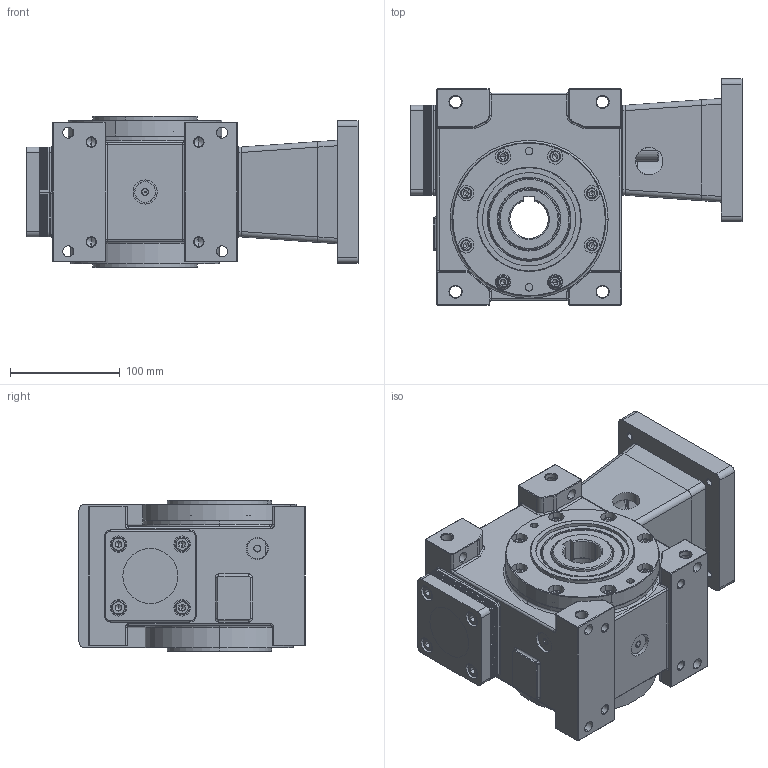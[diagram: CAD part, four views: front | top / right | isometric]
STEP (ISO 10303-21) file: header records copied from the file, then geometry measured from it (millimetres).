
FILE_DESCRIPTION (( 'STEP AP203' ), '1' );
FILE_NAME ('EDB63-60-P4-F145 110.STEP', '2022-01-17T05:34:05', ( '' ), ( '' ), 'SwSTEP 2.0', 'SolidWorks 2021', '' );
FILE_SCHEMA (( 'CONFIG_CONTROL_DESIGN' ));
Length unit declared in the file: millimetre
Products named in the file (1): EDB63-60-P4-F145 110
Bounding box: 302.5 x 206 x 138 mm (x, y, z)
Volume: 4371649.7 mm3; surface area: 504516.2 mm2
Topology: 42 solids, 53 shells, 2073 faces, 5186 edges, 3181 vertices
Faces by surface type: plane 776, cylinder 721, cone 343, torus 194, sphere 34, bspline 5
Entity records: 63366 total; most frequent: CARTESIAN_POINT 13656, DIRECTION 11016, ORIENTED_EDGE 9970, EDGE_CURVE 4985, AXIS2_PLACEMENT_3D 4310, VERTEX_POINT 3117, LINE 2396, VECTOR 2396
